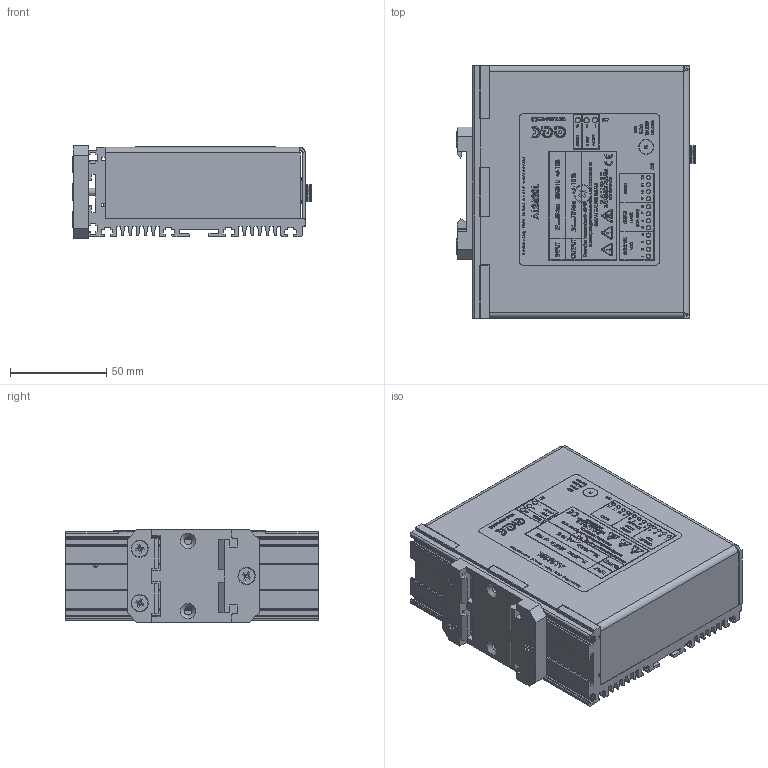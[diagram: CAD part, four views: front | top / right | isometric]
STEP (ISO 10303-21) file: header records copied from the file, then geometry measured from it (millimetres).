
FILE_DESCRIPTION (( 'STEP AP214' ), '1' );
FILE_NAME ('AL2620L.STEP', '2021-01-07T16:42:07', ( '' ), ( '' ), 'SwSTEP 2.0', 'SolidWorks 2019', '' );
FILE_SCHEMA (( 'AUTOMOTIVE_DESIGN' ));
Length unit declared in the file: millimetre
Products named in the file (18): FIX-DIN6948; Dist_35_5; HEAAL2620APAN; Label_AL2620L; 1991079; COVAL2620-ALG_V1; AL2620L; countersunk flat head cross recess screw_din_DIN EN ISO 7046-1 - M4 x 16 - Z - 16N; C1032_CONTACT; Colonnina_506a; 1990986; C1032_INSERT; LED_0805_GREEN_LED_0805.; BoardOutline_AL2620; countersunk flat head cross recess screw_din_DIN EN ISO 7046-1 - M4 x 10 - Z - 10N; C1032_BODY; OMEGA_C1032; pan head cross recess screw_din_DIN EN ISO 7045 - M3 x 4 - Z - 4N
Assembly tree (21 placements, depth 3):
  AL2620L
    HEAAL2620APAN
    COVAL2620-ALG_V1
    Colonnina_506a  x2
    BoardOutline_AL2620
    1990986
    1991079
    OMEGA_C1032
      C1032_BODY
      C1032_CONTACT
      C1032_INSERT
    pan head cross recess screw_din_DIN EN ISO 7045 - M3 x 4 - Z - 4N  x2
    Dist_35_5
    countersunk flat head cross recess screw_din_DIN EN ISO 7046-1 - M4 x 10 - Z - 10N
    FIX-DIN6948
    countersunk flat head cross recess screw_din_DIN EN ISO 7046-1 - M4 x 16 - Z - 16N  x3
    Label_AL2620L
    LED_0805_GREEN_LED_0805.
Bounding box: 123.8 x 131.2 x 48 mm (x, y, z)
Volume: 216161 mm3; surface area: 184881.6 mm2
Topology: 20 solids, 20 shells, 6757 faces, 18026 edges, 11943 vertices
Faces by surface type: plane 4136, bspline 1555, cylinder 889, cone 163, torus 8, sphere 6
Full cylindrical faces by diameter (mm): 0.457 x2, 0.625 x1, 0.991 x2, 1 x24, 1.016 x4, 1.1 x34, 1.5 x18, 1.524 x17, 1.544 x1, 2 x21, 2.032 x10, 2.2 x13, 2.5 x2, 2.6 x3, 2.8 x3, 3 x6, 3.15 x1, 3.2 x2, 3.3 x4, 4 x25, 5.4 x1, 5.5 x1, 5.6 x2, 6 x1, 7.2 x1, 7.4 x1, 7.8 x1, 8.4 x4, 8.8 x1, 9 x1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
Entity records: 300447 total; most frequent: CARTESIAN_POINT 130666, ORIENTED_EDGE 34834, DIRECTION 26349, EDGE_CURVE 17417, VECTOR 12181, LINE 12181, VERTEX_POINT 11717, EDGE_LOOP 7702
